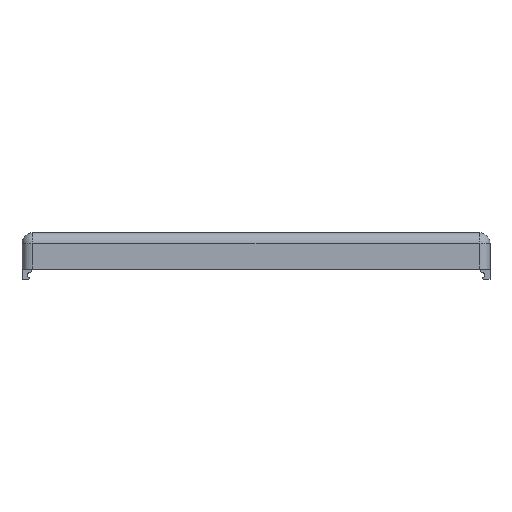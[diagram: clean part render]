
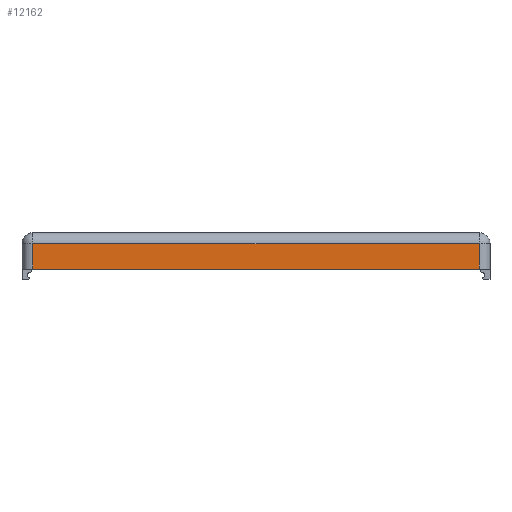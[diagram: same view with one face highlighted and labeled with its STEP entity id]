
A CAD part, front view. The second image highlights one B-rep face of the part: STEP entity #12162.
In plain terms, the highlighted planar face has unit normal (0, -1, 0).
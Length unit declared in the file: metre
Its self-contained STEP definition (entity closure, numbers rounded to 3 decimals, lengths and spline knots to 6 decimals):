
#2949=ORIENTED_EDGE('',*,*,#5947,.F.);
#2950=ORIENTED_EDGE('',*,*,#5932,.T.);
#2951=ORIENTED_EDGE('',*,*,#5946,.F.);
#2952=ORIENTED_EDGE('',*,*,#5948,.F.);
#5932=EDGE_CURVE('',#7510,#7509,#8516,.T.);
#5946=EDGE_CURVE('',#7515,#7509,#8524,.T.);
#5947=EDGE_CURVE('',#7510,#7516,#8525,.T.);
#5948=EDGE_CURVE('',#7516,#7515,#8526,.T.);
#7509=VERTEX_POINT('',#20225);
#7510=VERTEX_POINT('',#20227);
#7515=VERTEX_POINT('',#20246);
#7516=VERTEX_POINT('',#20255);
#8516=LINE('',#20226,#9624);
#8524=LINE('',#20250,#9632);
#8525=LINE('',#20254,#9633);
#8526=LINE('',#20256,#9634);
#9624=VECTOR('',#15958,1.);
#9632=VECTOR('',#15986,1.);
#9633=VECTOR('',#15993,1.);
#9634=VECTOR('',#15994,1.);
#10335=EDGE_LOOP('',(#2949,#2950,#2951,#2952));
#11171=FACE_BOUND('',#10335,.T.);
#11789=PLANE('',#13236);
#12162=ADVANCED_FACE('',(#11171),#11789,.F.);
#13236=AXIS2_PLACEMENT_3D('',#20253,#15991,#15992);
#15958=DIRECTION('',(1.,0.,0.));
#15986=DIRECTION('',(0.,0.,-1.));
#15991=DIRECTION('',(0.,1.,0.));
#15992=DIRECTION('',(0.,0.,1.));
#15993=DIRECTION('',(0.,0.,1.));
#15994=DIRECTION('',(1.,0.,0.));
#20225=CARTESIAN_POINT('',(-0.026861,-0.003619,0.0001));
#20226=CARTESIAN_POINT('',(-0.089,-0.003619,0.0001));
#20227=CARTESIAN_POINT('',(-0.151219,-0.003619,0.0001));
#20246=CARTESIAN_POINT('',(-0.026861,-0.003619,0.0072));
#20250=CARTESIAN_POINT('',(-0.026861,-0.003619,-0.01357));
#20253=CARTESIAN_POINT('',(-0.089,-0.003619,-0.01552));
#20254=CARTESIAN_POINT('',(-0.151219,-0.003619,-0.01552));
#20255=CARTESIAN_POINT('',(-0.151219,-0.003619,0.0072));
#20256=CARTESIAN_POINT('',(-0.089,-0.003619,0.0072));
